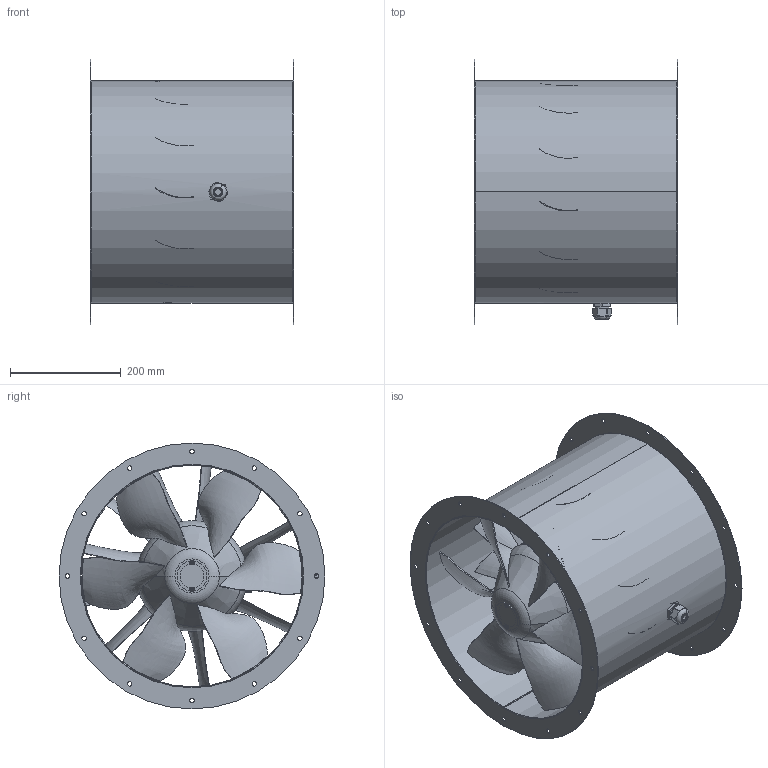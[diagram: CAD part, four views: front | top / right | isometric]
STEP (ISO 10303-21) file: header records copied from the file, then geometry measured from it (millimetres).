
FILE_DESCRIPTION (( 'STEP AP203' ), '1' );
FILE_NAME ('154090-00_AL400D401_step.step', '2020-05-29T08:16:12', ( '' ), ( '' ), 'SwSTEP 2.0', 'SolidWorks 2017', '' );
FILE_SCHEMA (( 'CONFIG_CONTROL_DESIGN' ));
Length unit declared in the file: millimetre
Products named in the file (1): 154090-00_AL400D401_step
Bounding box: 368 x 480 x 480 mm (x, y, z)
Surface area: 1711271.9 mm2 (no closed solid volume)
Topology: 0 solids, 70 shells, 724 faces, 2874 edges, 2162 vertices
Faces by surface type: plane 488, cylinder 134, bspline 65, torus 28, cone 9
Entity records: 857613 total; most frequent: CARTESIAN_POINT 835350, ORIENTED_EDGE 4072, DIRECTION 4063, EDGE_CURVE 2874, VERTEX_POINT 2162, LINE 1931, VECTOR 1931, AXIS2_PLACEMENT_3D 1066
